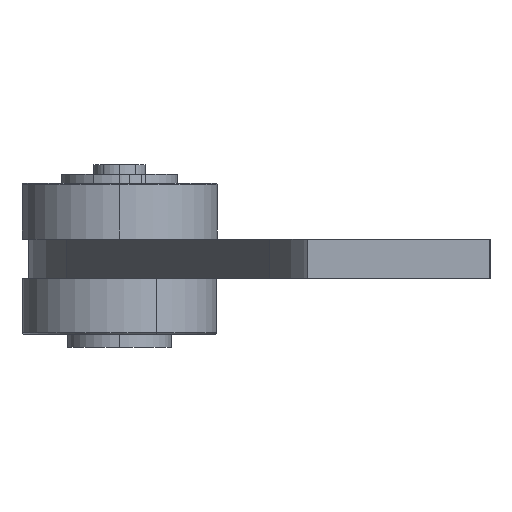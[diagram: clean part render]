
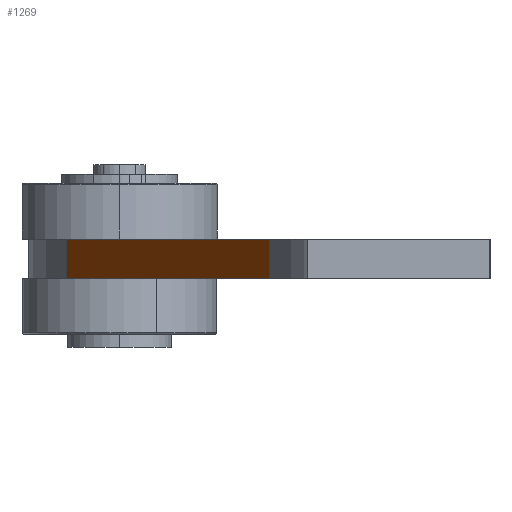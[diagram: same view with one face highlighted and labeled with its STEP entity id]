
A CAD part, left-side view. The second image highlights one B-rep face of the part: STEP entity #1269.
In plain terms, the highlighted planar face has unit normal (-0.431, 0.902, 0).
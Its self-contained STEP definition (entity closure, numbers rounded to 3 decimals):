
#40 = ORIENTED_EDGE ( 'NONE', *, *, #804, .T. ) ;
#43 = CARTESIAN_POINT ( 'NONE',  ( -68.866, -11.569, -3. ) ) ;
#115 = VECTOR ( 'NONE', #1591, 1000. ) ;
#137 = CARTESIAN_POINT ( 'NONE',  ( -68.866, -11.569, -3. ) ) ;
#164 = VERTEX_POINT ( 'NONE', #1401 ) ;
#200 = EDGE_CURVE ( 'NONE', #887, #1496, #1719, .T. ) ;
#227 = CARTESIAN_POINT ( 'NONE',  ( -36.134, 4.069, 0. ) ) ;
#237 = DIRECTION ( 'NONE',  ( -0.902, -0.431, 0. ) ) ;
#241 = EDGE_CURVE ( 'NONE', #599, #164, #655, .T. ) ;
#355 = LINE ( 'NONE', #1705, #115 ) ;
#464 = DIRECTION ( 'NONE',  ( -0.431, 0.902, 0. ) ) ;
#569 = VECTOR ( 'NONE', #237, 1000. ) ;
#599 = VERTEX_POINT ( 'NONE', #137 ) ;
#612 = CARTESIAN_POINT ( 'NONE',  ( -36.134, 4.069, 0. ) ) ;
#655 = LINE ( 'NONE', #43, #1688 ) ;
#666 = EDGE_LOOP ( 'NONE', ( #1265, #739, #40, #1464 ) ) ;
#696 = FACE_OUTER_BOUND ( 'NONE', #666, .T. ) ;
#739 = ORIENTED_EDGE ( 'NONE', *, *, #200, .F. ) ;
#740 = AXIS2_PLACEMENT_3D ( 'NONE', #880, #464, #1537 ) ;
#804 = EDGE_CURVE ( 'NONE', #887, #599, #355, .T. ) ;
#875 = CARTESIAN_POINT ( 'NONE',  ( -36.134, 4.069, -3. ) ) ;
#880 = CARTESIAN_POINT ( 'NONE',  ( -36.134, 4.069, -3. ) ) ;
#887 = VERTEX_POINT ( 'NONE', #875 ) ;
#930 = LINE ( 'NONE', #227, #569 ) ;
#1265 = ORIENTED_EDGE ( 'NONE', *, *, #1349, .F. ) ;
#1269 = ADVANCED_FACE ( 'NONE', ( #696 ), #1516, .T. ) ;
#1349 = EDGE_CURVE ( 'NONE', #1496, #164, #930, .T. ) ;
#1401 = CARTESIAN_POINT ( 'NONE',  ( -68.866, -11.569, 0. ) ) ;
#1410 = VECTOR ( 'NONE', #1651, 1000. ) ;
#1464 = ORIENTED_EDGE ( 'NONE', *, *, #241, .T. ) ;
#1496 = VERTEX_POINT ( 'NONE', #612 ) ;
#1516 = PLANE ( 'NONE',  #740 ) ;
#1536 = DIRECTION ( 'NONE',  ( 0., 0., 1. ) ) ;
#1537 = DIRECTION ( 'NONE',  ( -0.902, -0.431, 0. ) ) ;
#1546 = CARTESIAN_POINT ( 'NONE',  ( -36.134, 4.069, -3. ) ) ;
#1591 = DIRECTION ( 'NONE',  ( -0.902, -0.431, 0. ) ) ;
#1651 = DIRECTION ( 'NONE',  ( 0., 0., 1. ) ) ;
#1688 = VECTOR ( 'NONE', #1536, 1000. ) ;
#1705 = CARTESIAN_POINT ( 'NONE',  ( -36.134, 4.069, -3. ) ) ;
#1719 = LINE ( 'NONE', #1546, #1410 ) ;
